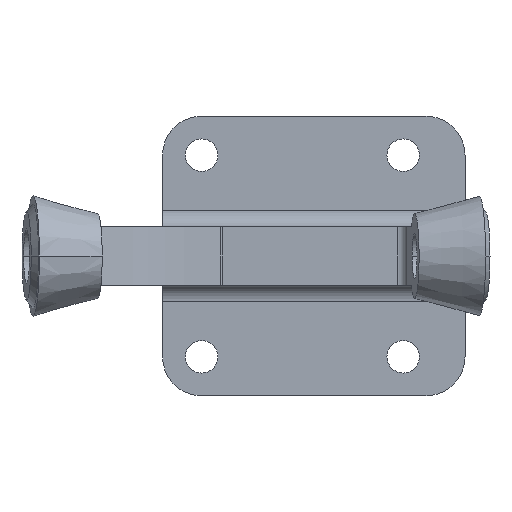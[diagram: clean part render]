
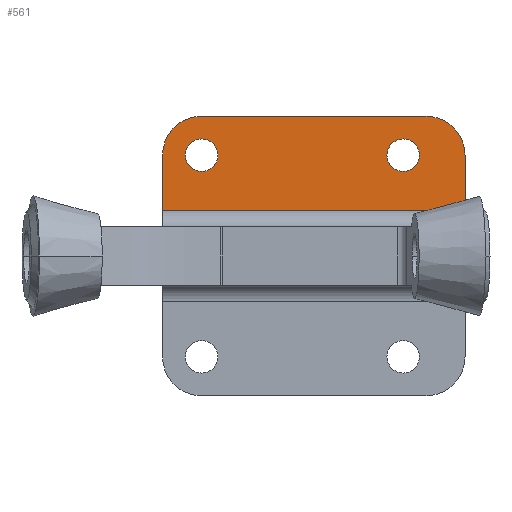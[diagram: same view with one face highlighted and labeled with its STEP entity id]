
A CAD part, left-side view. The second image highlights one B-rep face of the part: STEP entity #561.
In plain terms, the highlighted planar face has unit normal (-1, 0, 0).
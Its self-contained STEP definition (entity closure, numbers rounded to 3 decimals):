
#288 = EDGE_CURVE ( 'NONE', #301, #302, #1426, .T. ) ;
#301 = VERTEX_POINT ( 'NONE', #1490 ) ;
#302 = VERTEX_POINT ( 'NONE', #1489 ) ;
#350 = EDGE_CURVE ( 'NONE', #351, #376, #1485, .T. ) ;
#351 = VERTEX_POINT ( 'NONE', #1481 ) ;
#376 = VERTEX_POINT ( 'NONE', #1554 ) ;
#550 = VERTEX_POINT ( 'NONE', #1921 ) ;
#551 = ORIENTED_EDGE ( 'NONE', *, *, #552, .T. ) ;
#552 = EDGE_CURVE ( 'NONE', #550, #553, #1917, .T. ) ;
#553 = VERTEX_POINT ( 'NONE', #1913 ) ;
#555 = EDGE_LOOP ( 'NONE', ( #610, #611 ) ) ;
#556 = ORIENTED_EDGE ( 'NONE', *, *, #557, .T. ) ;
#557 = EDGE_CURVE ( 'NONE', #553, #587, #2003, .T. ) ;
#561 = ADVANCED_FACE ( 'NONE', ( #1992, #1991, #1990 ), #1996, .F. ) ;
#563 = EDGE_CURVE ( 'NONE', #376, #351, #1984, .T. ) ;
#564 = ORIENTED_EDGE ( 'NONE', *, *, #565, .T. ) ;
#565 = EDGE_CURVE ( 'NONE', #587, #588, #1980, .T. ) ;
#587 = VERTEX_POINT ( 'NONE', #1837 ) ;
#588 = VERTEX_POINT ( 'NONE', #1911 ) ;
#589 = ORIENTED_EDGE ( 'NONE', *, *, #590, .T. ) ;
#590 = EDGE_CURVE ( 'NONE', #588, #591, #1903, .T. ) ;
#591 = VERTEX_POINT ( 'NONE', #1899 ) ;
#592 = ORIENTED_EDGE ( 'NONE', *, *, #593, .T. ) ;
#593 = EDGE_CURVE ( 'NONE', #591, #594, #1898, .T. ) ;
#594 = VERTEX_POINT ( 'NONE', #1894 ) ;
#595 = ORIENTED_EDGE ( 'NONE', *, *, #596, .T. ) ;
#596 = EDGE_CURVE ( 'NONE', #594, #550, #1893, .T. ) ;
#598 = EDGE_LOOP ( 'NONE', ( #564, #589, #592, #595, #551, #556 ) ) ;
#607 = ORIENTED_EDGE ( 'NONE', *, *, #288, .F. ) ;
#608 = ORIENTED_EDGE ( 'NONE', *, *, #609, .F. ) ;
#609 = EDGE_CURVE ( 'NONE', #302, #301, #1679, .T. ) ;
#610 = ORIENTED_EDGE ( 'NONE', *, *, #350, .F. ) ;
#611 = ORIENTED_EDGE ( 'NONE', *, *, #563, .F. ) ;
#859 = EDGE_LOOP ( 'NONE', ( #607, #608 ) ) ;
#1425 = AXIS2_PLACEMENT_3D ( 'NONE', #1522, #1521, #1520 ) ;
#1426 = CIRCLE ( 'NONE', #1425, 5. ) ;
#1443 = CARTESIAN_POINT ( 'NONE',  ( -9., 31., 31. ) ) ;
#1481 = CARTESIAN_POINT ( 'NONE',  ( -9., 31., 26. ) ) ;
#1482 = DIRECTION ( 'NONE',  ( 0., 0., 1. ) ) ;
#1483 = DIRECTION ( 'NONE',  ( -1., 0., 0. ) ) ;
#1484 = AXIS2_PLACEMENT_3D ( 'NONE', #1443, #1483, #1482 ) ;
#1485 = CIRCLE ( 'NONE', #1484, 5. ) ;
#1489 = CARTESIAN_POINT ( 'NONE',  ( -9., -31., 36. ) ) ;
#1490 = CARTESIAN_POINT ( 'NONE',  ( -9., -31., 26. ) ) ;
#1520 = DIRECTION ( 'NONE',  ( 0., 0., 1. ) ) ;
#1521 = DIRECTION ( 'NONE',  ( -1., 0., 0. ) ) ;
#1522 = CARTESIAN_POINT ( 'NONE',  ( -9., -31., 31. ) ) ;
#1554 = CARTESIAN_POINT ( 'NONE',  ( -9., 31., 36. ) ) ;
#1675 = DIRECTION ( 'NONE',  ( 0., 0., 1. ) ) ;
#1676 = DIRECTION ( 'NONE',  ( -1., 0., 0. ) ) ;
#1677 = AXIS2_PLACEMENT_3D ( 'NONE', #1680, #1676, #1675 ) ;
#1679 = CIRCLE ( 'NONE', #1677, 5. ) ;
#1680 = CARTESIAN_POINT ( 'NONE',  ( -9., -31., 31. ) ) ;
#1837 = CARTESIAN_POINT ( 'NONE',  ( -9., 43., 31. ) ) ;
#1889 = DIRECTION ( 'NONE',  ( 0., 0., -1. ) ) ;
#1890 = DIRECTION ( 'NONE',  ( -1., 0., 0. ) ) ;
#1891 = CARTESIAN_POINT ( 'NONE',  ( -9., -38., 31. ) ) ;
#1892 = AXIS2_PLACEMENT_3D ( 'NONE', #1891, #1890, #1889 ) ;
#1893 = CIRCLE ( 'NONE', #1892, 12. ) ;
#1894 = CARTESIAN_POINT ( 'NONE',  ( -9., -50., 31. ) ) ;
#1895 = DIRECTION ( 'NONE',  ( 0., 0., 1. ) ) ;
#1896 = VECTOR ( 'NONE', #1895, 1000. ) ;
#1897 = CARTESIAN_POINT ( 'NONE',  ( -9., -50., 31. ) ) ;
#1898 = LINE ( 'NONE', #1897, #1896 ) ;
#1899 = CARTESIAN_POINT ( 'NONE',  ( -9., -50., 14. ) ) ;
#1900 = DIRECTION ( 'NONE',  ( 0., -1., 0. ) ) ;
#1901 = VECTOR ( 'NONE', #1900, 1000. ) ;
#1902 = CARTESIAN_POINT ( 'NONE',  ( -9., -50., 14. ) ) ;
#1903 = LINE ( 'NONE', #1902, #1901 ) ;
#1911 = CARTESIAN_POINT ( 'NONE',  ( -9., 43., 14. ) ) ;
#1912 = CARTESIAN_POINT ( 'NONE',  ( -9., 31., 31. ) ) ;
#1913 = CARTESIAN_POINT ( 'NONE',  ( -9., 31., 43. ) ) ;
#1914 = DIRECTION ( 'NONE',  ( 0., 1., 0. ) ) ;
#1915 = VECTOR ( 'NONE', #1914, 1000. ) ;
#1916 = CARTESIAN_POINT ( 'NONE',  ( -9., 31., 43. ) ) ;
#1917 = LINE ( 'NONE', #1916, #1915 ) ;
#1921 = CARTESIAN_POINT ( 'NONE',  ( -9., -38., 43. ) ) ;
#1977 = DIRECTION ( 'NONE',  ( 0., 0., -1. ) ) ;
#1978 = VECTOR ( 'NONE', #1977, 1000. ) ;
#1979 = CARTESIAN_POINT ( 'NONE',  ( -9., 43., -31. ) ) ;
#1980 = LINE ( 'NONE', #1979, #1978 ) ;
#1981 = DIRECTION ( 'NONE',  ( 0., 0., 1. ) ) ;
#1982 = DIRECTION ( 'NONE',  ( -1., 0., 0. ) ) ;
#1983 = AXIS2_PLACEMENT_3D ( 'NONE', #1987, #1982, #1981 ) ;
#1984 = CIRCLE ( 'NONE', #1983, 5. ) ;
#1985 = DIRECTION ( 'NONE',  ( 0., 0., -1. ) ) ;
#1986 = DIRECTION ( 'NONE',  ( 1., 0., 0. ) ) ;
#1987 = CARTESIAN_POINT ( 'NONE',  ( -9., 31., 31. ) ) ;
#1988 = CARTESIAN_POINT ( 'NONE',  ( -9., 31., -31. ) ) ;
#1989 = AXIS2_PLACEMENT_3D ( 'NONE', #1988, #1986, #1985 ) ;
#1990 = FACE_OUTER_BOUND ( 'NONE', #598, .T. ) ;
#1991 = FACE_BOUND ( 'NONE', #555, .T. ) ;
#1992 = FACE_BOUND ( 'NONE', #859, .T. ) ;
#1996 = PLANE ( 'NONE',  #1989 ) ;
#2000 = DIRECTION ( 'NONE',  ( 0., 0., 1. ) ) ;
#2001 = DIRECTION ( 'NONE',  ( -1., 0., 0. ) ) ;
#2002 = AXIS2_PLACEMENT_3D ( 'NONE', #1912, #2001, #2000 ) ;
#2003 = CIRCLE ( 'NONE', #2002, 12. ) ;
